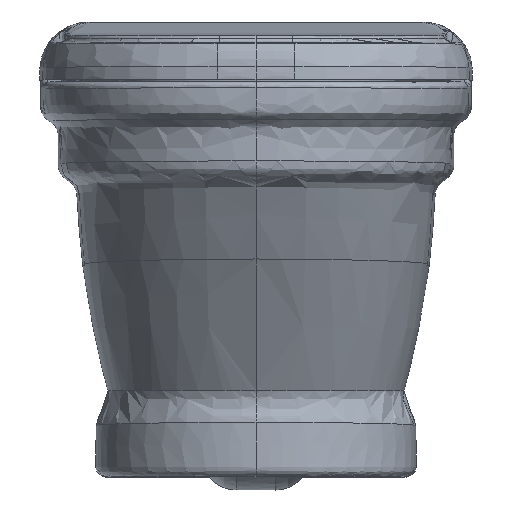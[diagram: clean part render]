
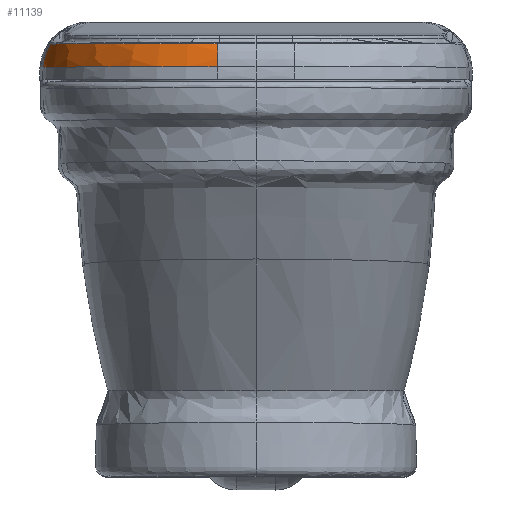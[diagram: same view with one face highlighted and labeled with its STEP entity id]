
A CAD part, top view. The second image highlights one B-rep face of the part: STEP entity #11139.
In plain terms, the highlighted free-form (B-spline) face has degree [3, 3] with [4, 4] control points.
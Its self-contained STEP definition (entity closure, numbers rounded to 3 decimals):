
#4948 = AXIS2_PLACEMENT_3D ( 'NONE', #113863, #181687, #163097 ) ;
#5313 =( BOUNDED_CURVE ( )  B_SPLINE_CURVE ( 3, ( #13237, #127010, #141266, #11088 ),
 .UNSPECIFIED., .F., .F. ) 
 B_SPLINE_CURVE_WITH_KNOTS ( ( 4, 4 ),
 ( 0., 1. ),
 .UNSPECIFIED. ) 
 CURVE ( )  GEOMETRIC_REPRESENTATION_ITEM ( )  RATIONAL_B_SPLINE_CURVE ( ( 1., 0.829, 0.829, 1. ) ) 
 REPRESENTATION_ITEM ( '' )  );
#5800 = CARTESIAN_POINT ( 'NONE',  ( -32.367, 19.251, 262.627 ) ) ;
#11088 = CARTESIAN_POINT ( 'NONE',  ( -171.542, 31.62, 104.145 ) ) ;
#11139 = ADVANCED_FACE ( 'NONE', ( #21142 ), #75835, .T. ) ;
#13237 = CARTESIAN_POINT ( 'NONE',  ( -31.728, 31.62, 256.755 ) ) ;
#21142 = FACE_OUTER_BOUND ( 'NONE', #124716, .T. ) ;
#22560 = AXIS2_PLACEMENT_3D ( 'NONE', #160145, #25680, #92386 ) ;
#25680 = DIRECTION ( 'NONE',  ( 0., 0., 1. ) ) ;
#29576 = AXIS2_PLACEMENT_3D ( 'NONE', #52348, #149689, #68751 ) ;
#34113 = EDGE_CURVE ( 'NONE', #199755, #84056, #99203, .T. ) ;
#37542 = CARTESIAN_POINT ( 'NONE',  ( -177.924, 12.297, 104.145 ) ) ;
#39304 = CARTESIAN_POINT ( 'NONE',  ( -171.542, 31.62, 104.145 ) ) ;
#42075 = CARTESIAN_POINT ( 'NONE',  ( -32.419, 12.297, 263.099 ) ) ;
#52348 = CARTESIAN_POINT ( 'NONE',  ( -27.995, 9.502, 222.435 ) ) ;
#52887 = CARTESIAN_POINT ( 'NONE',  ( -170.606, 31.724, 187.269 ) ) ;
#55368 = ORIENTED_EDGE ( 'NONE', *, *, #165267, .F. ) ;
#56105 = CARTESIAN_POINT ( 'NONE',  ( -114.451, 31.724, 248.563 ) ) ;
#57184 = CARTESIAN_POINT ( 'NONE',  ( -118.284, 19.251, 254.155 ) ) ;
#68751 = DIRECTION ( 'NONE',  ( -0.108, 0., 0.994 ) ) ;
#69294 = CARTESIAN_POINT ( 'NONE',  ( -118.589, 12.297, 254.6 ) ) ;
#75835 =( BOUNDED_SURFACE ( )  B_SPLINE_SURFACE ( 3, 3, ( 
 ( #155628, #52887, #56105, #103153 ),
 ( #120648, #203790, #90012, #152392 ),
 ( #170954, #187374, #57184, #5800 ),
 ( #37542, #168810, #69294, #139204 ) ),
 .UNSPECIFIED., .F., .F., .T. ) 
 B_SPLINE_SURFACE_WITH_KNOTS ( ( 4, 4 ),
 ( 4, 4 ),
 ( 0., 1. ),
 ( 0., 1. ),
 .UNSPECIFIED. ) 
 GEOMETRIC_REPRESENTATION_ITEM ( )  RATIONAL_B_SPLINE_SURFACE ( (
 ( 1., 0.83, 0.83, 1.),
 ( 0.979, 0.812, 0.812, 0.979),
 ( 0.979, 0.812, 0.812, 0.979),
 ( 1., 0.83, 0.83, 1.) ) ) 
 REPRESENTATION_ITEM ( '' )  SURFACE ( )  );
#78087 = VERTEX_POINT ( 'NONE', #39304 ) ;
#80080 = EDGE_CURVE ( 'NONE', #162217, #78087, #5313, .T. ) ;
#84056 = VERTEX_POINT ( 'NONE', #42075 ) ;
#90012 = CARTESIAN_POINT ( 'NONE',  ( -116.875, 25.866, 252.099 ) ) ;
#92386 = DIRECTION ( 'NONE',  ( -1., 0., 0. ) ) ;
#99203 = CIRCLE ( 'NONE', #4948, 161.353 ) ;
#103153 = CARTESIAN_POINT ( 'NONE',  ( -31.721, 31.724, 256.688 ) ) ;
#106524 = CIRCLE ( 'NONE', #29576, 41. ) ;
#113863 = CARTESIAN_POINT ( 'NONE',  ( -16.579, 12.297, 102.526 ) ) ;
#119522 = CARTESIAN_POINT ( 'NONE',  ( -31.728, 31.62, 256.755 ) ) ;
#120648 = CARTESIAN_POINT ( 'NONE',  ( -175.253, 25.866, 104.145 ) ) ;
#124716 = EDGE_LOOP ( 'NONE', ( #55368, #180330, #167644, #135023 ) ) ;
#127010 = CARTESIAN_POINT ( 'NONE',  ( -114.494, 31.62, 248.625 ) ) ;
#135023 = ORIENTED_EDGE ( 'NONE', *, *, #34113, .T. ) ;
#139204 = CARTESIAN_POINT ( 'NONE',  ( -32.419, 12.297, 263.099 ) ) ;
#141187 = CIRCLE ( 'NONE', #22560, 41. ) ;
#141266 = CARTESIAN_POINT ( 'NONE',  ( -170.673, 31.62, 187.305 ) ) ;
#149689 = DIRECTION ( 'NONE',  ( 0.994, 0., 0.108 ) ) ;
#152392 = CARTESIAN_POINT ( 'NONE',  ( -32.13, 25.866, 260.444 ) ) ;
#155628 = CARTESIAN_POINT ( 'NONE',  ( -171.475, 31.724, 104.145 ) ) ;
#159506 = EDGE_CURVE ( 'NONE', #78087, #199755, #141187, .T. ) ;
#160145 = CARTESIAN_POINT ( 'NONE',  ( -137.02, 9.502, 104.145 ) ) ;
#162217 = VERTEX_POINT ( 'NONE', #119522 ) ;
#163097 = DIRECTION ( 'NONE',  ( 0., 0., 1. ) ) ;
#165267 = EDGE_CURVE ( 'NONE', #162217, #84056, #106524, .T. ) ;
#167644 = ORIENTED_EDGE ( 'NONE', *, *, #159506, .T. ) ;
#168810 = CARTESIAN_POINT ( 'NONE',  ( -177.055, 12.297, 190.73 ) ) ;
#170954 = CARTESIAN_POINT ( 'NONE',  ( -177.449, 19.251, 104.145 ) ) ;
#180330 = ORIENTED_EDGE ( 'NONE', *, *, #80080, .T. ) ;
#181687 = DIRECTION ( 'NONE',  ( 0., 1., 0. ) ) ;
#187374 = CARTESIAN_POINT ( 'NONE',  ( -176.58, 19.251, 190.475 ) ) ;
#198493 = CARTESIAN_POINT ( 'NONE',  ( -177.924, 12.297, 104.145 ) ) ;
#199755 = VERTEX_POINT ( 'NONE', #198493 ) ;
#203790 = CARTESIAN_POINT ( 'NONE',  ( -174.384, 25.866, 189.296 ) ) ;
